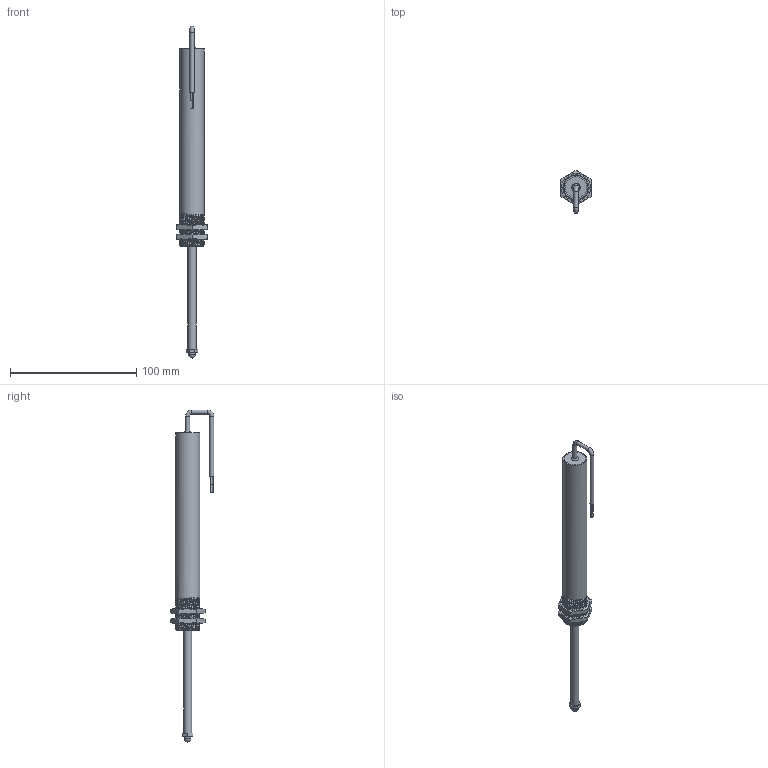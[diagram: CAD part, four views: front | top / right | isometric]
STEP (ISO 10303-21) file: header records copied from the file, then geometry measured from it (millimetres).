
FILE_DESCRIPTION(/* description */ (''),/* implementation_level */ '2;1');
FILE_NAME(/* name */ 'ILPS-18S-075-A-00-YY-Z.stp',/* time_stamp */ '2026-01-27T15:21:00-05:00',/* author */ ('wingm'),/* organization */ (''),/* preprocessor_version */ 'ST-DEVELOPER v20.1',/* originating_system */ 'Autodesk Inventor 2026',/* authorisation */ '');
FILE_SCHEMA (('AUTOMOTIVE_DESIGN { 1 0 10303 214 3 1 1 }'));
Length unit declared in the file: inch
Products named in the file (9): Assembly1; Body; End Cap; Shaft; Lining; Hex Nut; End Cap_1; #8552; ILPS-19-XXX-01 Cable
Assembly tree (9 placements, depth 2):
  Assembly1
    Body
    End Cap
    Shaft
    Lining
    Hex Nut  x2
    End Cap_1
    #8552
    ILPS-19-XXX-01 Cable
Bounding box: 24 x 34.49 x 263.08 mm (x, y, z)
Volume: 16868.3 mm3; surface area: 33181 mm2
Topology: 11 solids, 11 shells, 133 faces, 287 edges, 186 vertices
Faces by surface type: cylinder 59, plane 50, bspline 11, cone 10, torus 2, sphere 1
Full cylindrical faces by diameter (mm): 0.635 x4, 0.762 x4, 1.905 x1, 2.845 x3, 3.175 x5, 5.08 x1, 6.35 x2, 6.858 x2, 17.069 x3, 19.05 x29
Entity records: 8535 total; most frequent: CARTESIAN_POINT 5746, ORIENTED_EDGE 478, DIRECTION 468, EDGE_CURVE 239, AXIS2_PLACEMENT_3D 191, VERTEX_POINT 156, EDGE_LOOP 137, FACE_OUTER_BOUND 114
